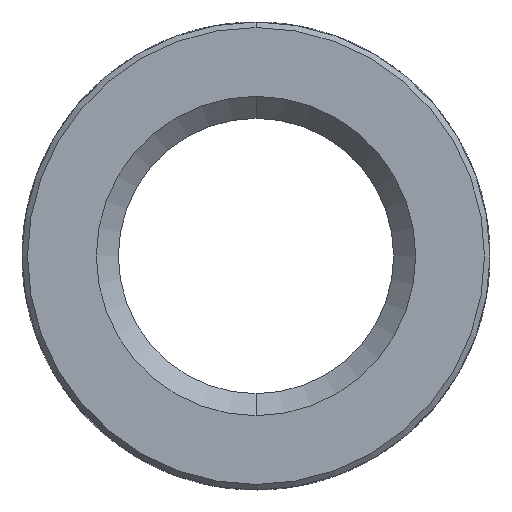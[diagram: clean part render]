
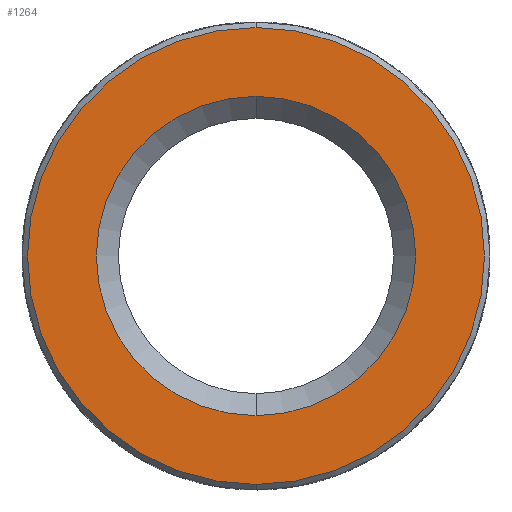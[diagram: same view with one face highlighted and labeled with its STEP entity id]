
A CAD part, front view. The second image highlights one B-rep face of the part: STEP entity #1264.
In plain terms, the highlighted planar face has unit normal (0, -1, 0).
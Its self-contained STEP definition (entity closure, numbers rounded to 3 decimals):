
#142 = ORIENTED_EDGE ( 'NONE', *, *, #3307, .T. ) ;
#279 = CIRCLE ( 'NONE', #2241, 2.9 ) ;
#379 = VERTEX_POINT ( 'NONE', #2603 ) ;
#386 = CARTESIAN_POINT ( 'NONE',  ( 0., -5.3, -2.9 ) ) ;
#509 = DIRECTION ( 'NONE',  ( 0., 1., 0. ) ) ;
#542 = EDGE_LOOP ( 'NONE', ( #142, #2901 ) ) ;
#650 = DIRECTION ( 'NONE',  ( 0., 0., -1. ) ) ;
#739 = AXIS2_PLACEMENT_3D ( 'NONE', #3070, #1040, #3672 ) ;
#894 = CIRCLE ( 'NONE', #1100, 4.15 ) ;
#1040 = DIRECTION ( 'NONE',  ( 0., -1., 0. ) ) ;
#1100 = AXIS2_PLACEMENT_3D ( 'NONE', #3553, #2106, #650 ) ;
#1155 = ORIENTED_EDGE ( 'NONE', *, *, #1275, .T. ) ;
#1264 = ADVANCED_FACE ( 'NONE', ( #2916, #1728 ), #1592, .T. ) ;
#1275 = EDGE_CURVE ( 'NONE', #2973, #2260, #279, .T. ) ;
#1557 = CARTESIAN_POINT ( 'NONE',  ( 0., -5.3, 4.15 ) ) ;
#1592 = PLANE ( 'NONE',  #2700 ) ;
#1662 = DIRECTION ( 'NONE',  ( 0., 1., 0. ) ) ;
#1728 = FACE_BOUND ( 'NONE', #2823, .T. ) ;
#1783 = VERTEX_POINT ( 'NONE', #1557 ) ;
#1831 = DIRECTION ( 'NONE',  ( 0., -1., 0. ) ) ;
#2106 = DIRECTION ( 'NONE',  ( 0., -1., 0. ) ) ;
#2233 = CARTESIAN_POINT ( 'NONE',  ( 0., -5.3, 2.9 ) ) ;
#2241 = AXIS2_PLACEMENT_3D ( 'NONE', #3420, #1662, #2846 ) ;
#2260 = VERTEX_POINT ( 'NONE', #386 ) ;
#2480 = DIRECTION ( 'NONE',  ( 0., 0., -1. ) ) ;
#2573 = AXIS2_PLACEMENT_3D ( 'NONE', #3134, #509, #3718 ) ;
#2603 = CARTESIAN_POINT ( 'NONE',  ( 0., -5.3, -4.15 ) ) ;
#2700 = AXIS2_PLACEMENT_3D ( 'NONE', #3361, #1831, #2480 ) ;
#2808 = ORIENTED_EDGE ( 'NONE', *, *, #2961, .T. ) ;
#2823 = EDGE_LOOP ( 'NONE', ( #2808, #1155 ) ) ;
#2846 = DIRECTION ( 'NONE',  ( 0., 0., -1. ) ) ;
#2871 = CIRCLE ( 'NONE', #739, 4.15 ) ;
#2901 = ORIENTED_EDGE ( 'NONE', *, *, #3580, .T. ) ;
#2916 = FACE_OUTER_BOUND ( 'NONE', #542, .T. ) ;
#2961 = EDGE_CURVE ( 'NONE', #2260, #2973, #3147, .T. ) ;
#2973 = VERTEX_POINT ( 'NONE', #2233 ) ;
#3070 = CARTESIAN_POINT ( 'NONE',  ( 0., -5.3, 0. ) ) ;
#3134 = CARTESIAN_POINT ( 'NONE',  ( 0., -5.3, 0. ) ) ;
#3147 = CIRCLE ( 'NONE', #2573, 2.9 ) ;
#3307 = EDGE_CURVE ( 'NONE', #1783, #379, #2871, .T. ) ;
#3361 = CARTESIAN_POINT ( 'NONE',  ( 0., -5.3, 4.25 ) ) ;
#3420 = CARTESIAN_POINT ( 'NONE',  ( 0., -5.3, 0. ) ) ;
#3553 = CARTESIAN_POINT ( 'NONE',  ( 0., -5.3, 0. ) ) ;
#3580 = EDGE_CURVE ( 'NONE', #379, #1783, #894, .T. ) ;
#3672 = DIRECTION ( 'NONE',  ( 0., 0., -1. ) ) ;
#3718 = DIRECTION ( 'NONE',  ( 0., 0., -1. ) ) ;
